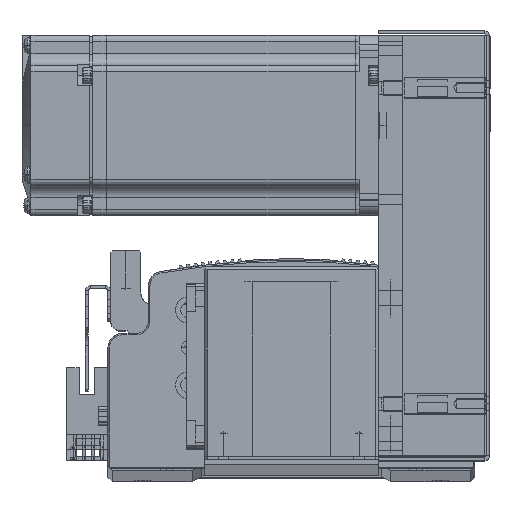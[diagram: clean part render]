
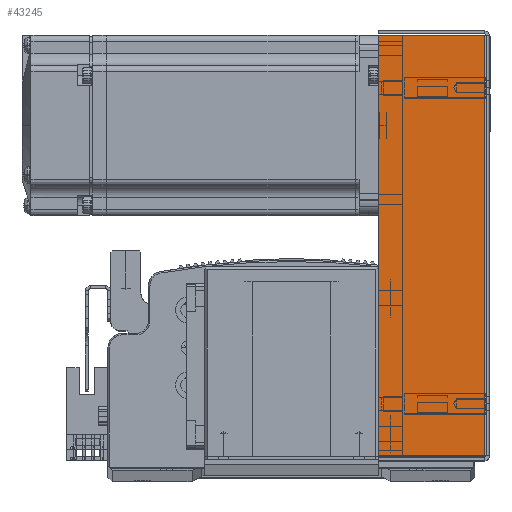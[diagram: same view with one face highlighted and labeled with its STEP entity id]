
A CAD part, top view. The second image highlights one B-rep face of the part: STEP entity #43245.
In plain terms, the highlighted planar face has unit normal (0, 0, 1) as drawn and (0, 0, -1) by its records, which use the part's own axes.
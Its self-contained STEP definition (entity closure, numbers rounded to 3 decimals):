
#541 = LINE ( 'NONE', #4336, #558 ) ;
#558 = VECTOR ( 'NONE', #4337, 1000. ) ;
#4083 = CARTESIAN_POINT ( 'NONE',  ( 69.793, 0.737, -33.5 ) ) ;
#4190 = CARTESIAN_POINT ( 'NONE',  ( -69.793, 0.737, -33.5 ) ) ;
#4336 = CARTESIAN_POINT ( 'NONE',  ( -69.793, 0., -33.5 ) ) ;
#4337 = DIRECTION ( 'NONE',  ( 0., 1., 0. ) ) ;
#4375 = CARTESIAN_POINT ( 'NONE',  ( 71.5, 0.737, -33.5 ) ) ;
#4395 = DIRECTION ( 'NONE',  ( 1., 0., 0. ) ) ;
#4467 = CARTESIAN_POINT ( 'NONE',  ( 69.793, 0., -33.5 ) ) ;
#4477 = CARTESIAN_POINT ( 'NONE',  ( 0., 36., -33.5 ) ) ;
#4501 = DIRECTION ( 'NONE',  ( 1., 0., 0. ) ) ;
#4508 = DIRECTION ( 'NONE',  ( 0., 1., 0. ) ) ;
#6203 = EDGE_CURVE ( 'NONE', #7436, #7258, #541, .T. ) ;
#6214 = EDGE_CURVE ( 'NONE', #7436, #7320, #57656, .T. ) ;
#6243 = EDGE_CURVE ( 'NONE', #7258, #7187, #14522, .T. ) ;
#6248 = EDGE_CURVE ( 'NONE', #7320, #7187, #14477, .T. ) ;
#7187 = VERTEX_POINT ( 'NONE', #9354 ) ;
#7258 = VERTEX_POINT ( 'NONE', #9460 ) ;
#7320 = VERTEX_POINT ( 'NONE', #4083 ) ;
#7436 = VERTEX_POINT ( 'NONE', #4190 ) ;
#9354 = CARTESIAN_POINT ( 'NONE',  ( 69.793, 36., -33.5 ) ) ;
#9460 = CARTESIAN_POINT ( 'NONE',  ( -69.793, 36., -33.5 ) ) ;
#14473 = VECTOR ( 'NONE', #4501, 1000. ) ;
#14477 = LINE ( 'NONE', #4467, #14531 ) ;
#14522 = LINE ( 'NONE', #4477, #14473 ) ;
#14531 = VECTOR ( 'NONE', #4508, 1000. ) ;
#26767 = FACE_OUTER_BOUND ( 'NONE', #97118, .T. ) ;
#43245 = ADVANCED_FACE ( 'NONE', ( #26767 ), #59079, .F. ) ;
#57656 = LINE ( 'NONE', #4375, #57658 ) ;
#57658 = VECTOR ( 'NONE', #4395, 1000. ) ;
#58456 = AXIS2_PLACEMENT_3D ( 'NONE', #59092, #59172, #59085 ) ;
#59079 = PLANE ( 'NONE',  #58456 ) ;
#59085 = DIRECTION ( 'NONE',  ( 0., -1., 0. ) ) ;
#59092 = CARTESIAN_POINT ( 'NONE',  ( 0., 0., -33.5 ) ) ;
#59172 = DIRECTION ( 'NONE',  ( 0., 0., 1. ) ) ;
#93103 = ORIENTED_EDGE ( 'NONE', *, *, #6243, .T. ) ;
#93116 = ORIENTED_EDGE ( 'NONE', *, *, #6214, .F. ) ;
#93119 = ORIENTED_EDGE ( 'NONE', *, *, #6203, .T. ) ;
#93125 = ORIENTED_EDGE ( 'NONE', *, *, #6248, .F. ) ;
#97118 = EDGE_LOOP ( 'NONE', ( #93116, #93119, #93103, #93125 ) ) ;
